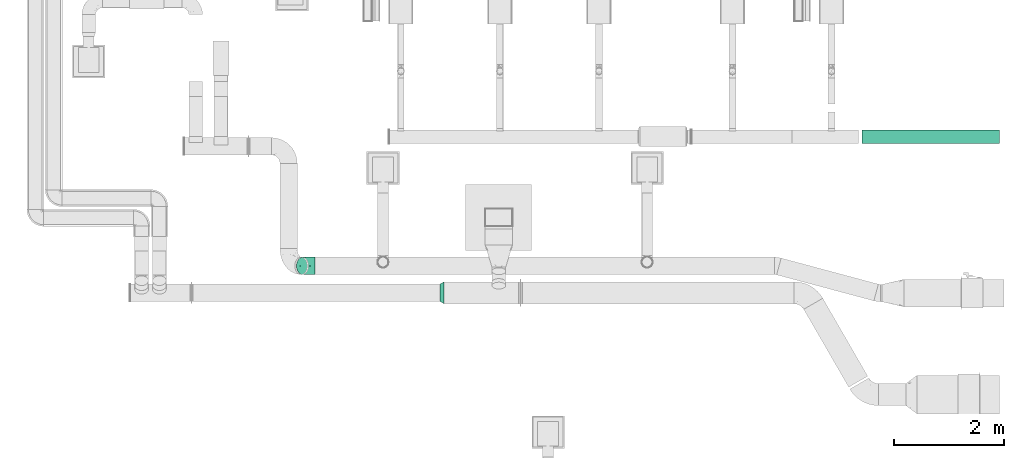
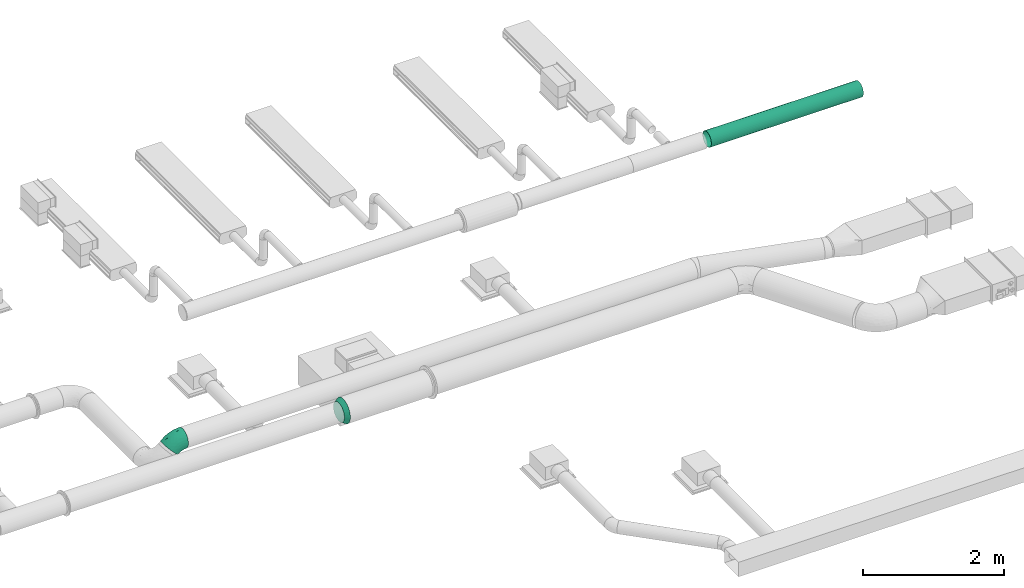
# One storey, part 31 of 36: 2 flow fittings, 1 flow segment.
"""IFC2X3 building model written with IfcOpenShell, lengths in millimetres."""

from ifc_helpers import new_model, entity, si_unit, converted_unit, derived_unit, direction, frame, origin_with_axes, place, context, subcontext, project, spatial, open_shell, faceted_brep, surface_model, source, transform, mapped, type_object, element, save


model = new_model("IFC2X3")

# Units and contexts
model_context = context("Model", 3, precision=0.01, world=frame((0.0, 4.29681676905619e-09, 0.0)), true_north=direction((4.01073788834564e-13, 1.0)))
plan_context = context("Plan", 3, precision=0.01, world=frame((0.0, 4.29681676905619e-09, 0.0)), true_north=direction((4.01073788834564e-13, 1.0)))
body_context = subcontext(model_context, "Body", "Model", "MODEL_VIEW")
ifc_project = project(units=[converted_unit("PLANEANGLEUNIT", "DEGREE", entity("IfcPositiveLengthMeasure", 0.0174532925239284), si_unit("PLANEANGLEUNIT", "RADIAN"), dimensions=[0, 0, 0, 0, 0, 0, 0]), si_unit("AREAUNIT", "SQUARE_METRE"), si_unit("LENGTHUNIT", "METRE", prefix="MILLI"), si_unit("MASSUNIT", "GRAM", prefix="KILO"), si_unit("POWERUNIT", "WATT"), si_unit("PRESSUREUNIT", "PASCAL"), si_unit("FORCEUNIT", "NEWTON", prefix="KILO"), si_unit("ELECTRICCURRENTUNIT", "AMPERE"), si_unit("THERMODYNAMICTEMPERATUREUNIT", "DEGREE_CELSIUS"), si_unit("TIMEUNIT", "SECOND"), si_unit("VOLUMEUNIT", "CUBIC_METRE"), derived_unit("LINEARVELOCITYUNIT", [(si_unit("LENGTHUNIT", "METRE"), 1), (si_unit("TIMEUNIT", "SECOND"), -1)]), derived_unit("VOLUMETRICFLOWRATEUNIT", [(si_unit("VOLUMEUNIT", "CUBIC_METRE"), 1), (si_unit("TIMEUNIT", "SECOND"), -1)]), derived_unit("THERMALTRANSMITTANCEUNIT", [(si_unit("POWERUNIT", "WATT"), 1), (si_unit("THERMODYNAMICTEMPERATUREUNIT", "KELVIN"), -1), (si_unit("AREAUNIT", "SQUARE_METRE"), -1)])], contexts=[model_context, plan_context])

# Site, building, storey
site_placement = place(None, frame((0.0, -4.29681676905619e-09, 0.0), z_axis=(0.0, 0.0, 1.0), x_axis=(1.0, 0.0, 0.0)))
site = spatial("IfcSite", under=ifc_project, at=site_placement, CompositionType="ELEMENT")
building_placement = place(site_placement, frame((0.0, 4.29681676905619e-09, 0.0), z_axis=(0.0, 0.0, 1.0), x_axis=(1.0, 0.0, 0.0)))
building = spatial("IfcBuilding", under=site, at=building_placement, Name="mc-building", CompositionType="ELEMENT")
storey_placement = place(building_placement, frame((0.0, 0.0, 204000.0), z_axis=(0.0, 0.0, 1.0), x_axis=(1.0, 0.0, 0.0)))
storey = spatial("IfcBuildingStorey", under=building, at=storey_placement, Name="Nivå D", CompositionType="ELEMENT", Elevation=204000.0)

# Flow fittings
duct_fitting_type_1 = type_object("IfcDuctFittingType", Name="magicirc_elbow_full_radius_001", PredefinedType="BEND")
shared_shape_1 = source(origin_with_axes(), body_context, "Body", "SurfaceModel", [
    surface_model("IfcShellBasedSurfaceModel", [(-130.47727, 78.75, -136.39901), (-130.47727, 40.764, -152.13332), (-130.47727, 0.0, -157.5), (-130.47727, 136.39901, -78.75), (-130.47727, -40.764, -152.13332), (-130.47727, 111.36932, -111.36932), (-130.47727, -157.5, 0.0), (-130.47727, -152.13332, 40.764), (-130.47727, -111.36932, -111.36932), (-130.47727, -152.13332, -40.764), (-130.47727, -78.75, -136.39901), (-130.47727, -136.39901, -78.75), (-130.47727, 152.13332, -40.764), (-130.47727, 157.5, 0.0), (-130.47727, 152.13332, 40.764), (-130.47727, 136.39901, 78.75), (-130.47727, 111.36932, 111.36932), (-130.47727, 78.75, 136.39901), (-130.47727, 40.764, 152.13332), (-130.47727, -111.36932, 111.36932), (-130.47727, -78.75, 136.39901), (-130.47727, -136.39901, 78.75), (-130.47727, 0.0, 157.5), (-130.47727, -40.764, 152.13332), (92.26137, 92.26137, -157.5), (63.43686, 121.08587, -152.13332), (36.57671, 147.94602, -136.39901), (121.08587, 63.43686, -152.13332), (-4.18729, 188.71003, -78.75), (13.51136, 171.01136, -111.36932), (13.51136, 171.01136, 111.36932), (203.63068, -19.10795, 0.0), (171.01136, 13.51136, -111.36932), (147.94602, 36.57671, -136.39901), (199.83586, -15.31314, -40.764), (188.71003, -4.18729, -78.75), (-15.31314, 199.83586, -40.764), (-19.10795, 203.63068, 0.0), (-15.31314, 199.83586, 40.764), (-4.18729, 188.71003, 78.75), (199.83586, -15.31314, 40.764), (36.57671, 147.94602, 136.39901), (63.43686, 121.08587, 152.13332), (188.71003, -4.18729, 78.75), (147.94602, 36.57671, 136.39901), (171.01136, 13.51136, 111.36932), (92.26137, 92.26137, 157.5), (121.08587, 63.43686, 152.13332), (-90.31824, -62.89797, 143.44996), (-72.27875, -23.25773, 154.94979), (-56.56199, -151.68274, 0.0), (-70.62575, -144.42219, 53.02885), (-91.264, -154.41385, 0.0), (-89.63351, -126.15228, 91.7184), (-69.33391, -97.41309, 120.07653), (-16.38997, -97.78481, 109.44527), (-40.47078, -60.22037, 140.65724), (-39.28412, -122.29161, 86.38044), (152.5836, -25.82267, 91.71841), (-81.87175, 17.75633, 156.89351), (67.55449, 34.66309, 154.94979), (45.33645, 70.44769, 156.89351), (19.44546, -106.17047, 85.82993), (-9.83286, -133.58825, 49.47276), (46.24417, -111.64335, 57.07322), (101.41402, -87.50829, 49.47275), (152.06186, -52.18197, 53.02885), (114.25128, -58.69516, 86.38044), (-3.65855, 130.02911, 128.74157), (-83.53697, 125.9293, 101.78766), (-89.35748, 94.53145, 128.74157), (-72.45165, 58.76305, 148.57173), (-42.27491, 102.06066, 132.90326), (-34.80211, 144.57687, 102.52932), (71.19939, -13.96507, 140.65724), (20.14269, -6.20589, 152.39698), (-29.92035, 72.23411, 148.58687), (9.6793, 92.78281, 148.57173), (-66.76397, 161.18248, 52.45275), (-89.71327, 162.86668, 0.0), (-51.72727, 178.601, 0.0), (115.64225, -86.63056, 0.0), (49.78325, -120.1874, 0.0), (84.03324, -106.00058, 0.0), (66.8953, -111.32944, 29.0342), (66.95497, -86.10086, 85.82994), (108.34022, 19.38906, 143.44996), (21.01822, -47.55911, 136.8648), (32.83795, -79.27786, 110.97397), (80.23571, -55.72758, 111.31288), (-99.24246, 146.38754, 64.87357), (173.72046, -44.65369, 0.0), (117.90794, -19.85497, 120.07653), (-11.3948, 27.50947, 157.45362), (-66.77072, 146.456, 81.42725), (-35.48483, 168.38694, 71.56288), (-24.4967, -27.0546, 151.48903), (-44.47795, 2.85402, 157.2553), (29.43256, 33.46875, 157.2553), (26.71905, -127.11627, 31.92385), (-20.51436, -143.02847, 0.0), (147.25126, -67.26053, 0.0), (15.53326, -134.3742, 0.0), (-89.35749, 94.53145, -128.74157), (31.41968, -126.02392, -29.0342), (13.53818, -108.22682, -85.82992), (-17.32987, -96.14058, -111.31287), (32.83796, -79.27786, -110.97396), (108.34022, 19.38906, -143.44996), (67.55449, 34.66308, -154.94979), (-72.45166, 58.76305, -148.57173), (9.67929, 92.78279, -148.57174), (-81.87176, 17.75632, -156.89351), (-66.76398, 161.18248, -52.45275), (-93.97599, 144.15911, -71.56287), (-77.62248, 126.84009, -102.52932), (-42.27492, 102.06066, -132.90325), (-40.47078, -60.22037, -140.65723), (-72.27875, -23.25774, -154.94979), (-9.85481, -18.63127, -152.39698), (-70.62574, -144.42219, -53.02885), (-89.63351, -126.15228, -91.7184), (-29.92036, 72.23411, -148.58687), (-44.47795, 2.85401, -157.2553), (-69.33391, -97.41309, -120.07653), (46.24419, -111.64335, -57.07321), (61.32383, -88.82388, -85.82992), (-90.31824, -62.89797, -143.44996), (152.06185, -52.18197, -53.02885), (101.41403, -87.50828, -49.47276), (114.25129, -58.69516, -86.38043), (18.76725, -48.49151, -136.86479), (-56.34601, 150.77405, -81.42725), (117.90794, -19.85498, -120.07653), (71.19939, -13.96508, -140.65723), (-9.83285, -133.58825, -49.47276), (-39.28411, -122.29161, -86.38043), (-29.97591, 148.11501, -101.78766), (-33.33661, 173.68664, -64.87357), (-3.65856, 130.02911, -128.74157), (152.5836, -25.82267, -91.7184), (45.33645, 70.44768, -156.89351), (80.73375, -57.55486, -109.44526), (-11.3948, 27.50946, -157.45362), (36.45227, -1.80872, -151.48903), (29.43256, 33.46875, -157.2553), (70.99154, -108.778, -31.92385)], [open_shell([[[0, 1, 2]], [[3, 0, 2]], [[4, 3, 2]], [[5, 0, 3]], [[3, 6, 7]], [[8, 9, 10]], [[4, 10, 6]], [[11, 9, 8]], [[6, 10, 9]], [[6, 3, 4]], [[7, 12, 3]], [[13, 7, 14]], [[15, 14, 16]], [[17, 16, 7]], [[7, 16, 14]], [[7, 18, 17]], [[19, 20, 21]], [[7, 21, 22]], [[23, 22, 20]], [[21, 20, 22]], [[22, 18, 7]], [[12, 7, 13]], [[24, 25, 26]], [[27, 24, 26]], [[26, 28, 27]], [[28, 26, 29]], [[28, 30, 31]], [[27, 32, 33]], [[32, 27, 34]], [[32, 34, 35]], [[34, 27, 31]], [[27, 28, 31]], [[28, 36, 37]], [[28, 38, 30]], [[30, 38, 39]], [[40, 30, 41]], [[30, 40, 31]], [[41, 42, 43]], [[43, 44, 45]], [[43, 40, 41]], [[44, 46, 47]], [[46, 44, 43]], [[42, 46, 43]], [[38, 28, 37]], [[48, 49, 23]], [[50, 51, 52]], [[19, 21, 53]], [[54, 55, 56]], [[53, 51, 57]], [[45, 58, 43]], [[54, 20, 19]], [[59, 22, 49]], [[60, 46, 61]], [[19, 53, 54]], [[23, 20, 48]], [[62, 63, 64]], [[65, 66, 67]], [[41, 30, 68]], [[16, 69, 15]], [[70, 71, 72]], [[21, 7, 51]], [[69, 72, 73]], [[18, 22, 59]], [[74, 60, 75]], [[72, 76, 77]], [[14, 78, 79]], [[76, 72, 71]], [[79, 13, 14]], [[80, 78, 38]], [[46, 42, 61]], [[70, 16, 17]], [[66, 65, 81]], [[82, 83, 84]], [[64, 85, 62]], [[47, 86, 44]], [[23, 49, 22]], [[87, 74, 75]], [[86, 60, 74]], [[43, 66, 40]], [[88, 85, 89]], [[14, 15, 90]], [[66, 91, 40]], [[17, 18, 71]], [[44, 92, 45]], [[60, 47, 46]], [[66, 43, 58]], [[85, 88, 62]], [[51, 63, 57]], [[59, 93, 71]], [[79, 78, 80]], [[78, 94, 95]], [[37, 80, 38]], [[49, 96, 97]], [[38, 78, 95]], [[90, 69, 94]], [[39, 73, 30]], [[48, 54, 56]], [[68, 73, 72]], [[98, 60, 61]], [[77, 42, 41]], [[41, 68, 77]], [[55, 57, 62]], [[51, 7, 52]], [[92, 67, 58]], [[99, 63, 100]], [[60, 98, 75]], [[86, 92, 44]], [[74, 87, 89]], [[85, 65, 67]], [[71, 93, 76]], [[69, 16, 70]], [[90, 94, 78]], [[42, 77, 61]], [[93, 61, 77]], [[97, 59, 49]], [[71, 18, 59]], [[75, 93, 97]], [[87, 88, 89]], [[71, 70, 17]], [[69, 70, 72]], [[73, 68, 30]], [[77, 68, 72]], [[65, 83, 81]], [[99, 84, 64]], [[82, 84, 99]], [[84, 83, 65]], [[96, 87, 75]], [[55, 87, 56]], [[60, 86, 47]], [[92, 86, 74]], [[54, 48, 20]], [[49, 48, 56]], [[51, 53, 21]], [[54, 53, 57]], [[92, 58, 45]], [[66, 58, 67]], [[69, 90, 15]], [[78, 14, 90]], [[69, 73, 94]], [[95, 73, 39]], [[73, 95, 94]], [[38, 95, 39]], [[7, 6, 52]], [[91, 66, 101]], [[91, 31, 40]], [[93, 77, 76]], [[63, 99, 64]], [[101, 66, 81]], [[65, 64, 84]], [[51, 100, 63]], [[82, 99, 102]], [[65, 85, 64]], [[89, 67, 92]], [[67, 89, 85]], [[74, 89, 92]], [[55, 62, 88]], [[63, 62, 57]], [[55, 88, 87]], [[54, 57, 55]], [[61, 93, 98]], [[75, 98, 93]], [[49, 56, 96]], [[93, 59, 97]], [[87, 96, 56]], [[75, 97, 96]], [[100, 51, 50]], [[102, 99, 100]], [[103, 0, 5]], [[104, 82, 102]], [[105, 106, 107]], [[108, 109, 27]], [[0, 103, 110]], [[26, 25, 111]], [[13, 79, 12]], [[2, 1, 112]], [[12, 79, 113]], [[12, 113, 114]], [[115, 116, 103]], [[27, 109, 24]], [[117, 118, 119]], [[1, 0, 110]], [[120, 11, 121]], [[116, 122, 110]], [[120, 52, 9]], [[118, 123, 119]], [[124, 8, 10]], [[125, 105, 126]], [[127, 10, 4]], [[128, 129, 130]], [[117, 131, 106]], [[120, 9, 11]], [[118, 117, 127]], [[8, 121, 11]], [[113, 132, 114]], [[122, 116, 111]], [[79, 80, 113]], [[108, 133, 134]], [[80, 37, 36]], [[135, 120, 136]], [[29, 137, 28]], [[28, 138, 36]], [[118, 4, 2]], [[115, 137, 116]], [[139, 29, 26]], [[140, 32, 35]], [[112, 118, 2]], [[25, 24, 141]], [[3, 115, 5]], [[111, 116, 139]], [[35, 34, 128]], [[108, 27, 33]], [[133, 33, 32]], [[131, 117, 119]], [[138, 137, 132]], [[129, 125, 126]], [[10, 127, 124]], [[32, 140, 133]], [[130, 140, 128]], [[141, 24, 109]], [[128, 91, 101]], [[121, 124, 136]], [[123, 118, 112]], [[134, 133, 142]], [[120, 135, 100]], [[105, 107, 126]], [[141, 143, 111]], [[113, 80, 36]], [[142, 130, 126]], [[109, 144, 145]], [[128, 34, 91]], [[146, 129, 81]], [[105, 135, 136]], [[34, 31, 91]], [[137, 29, 139]], [[138, 132, 113]], [[1, 110, 112]], [[143, 112, 110]], [[145, 141, 109]], [[111, 25, 141]], [[119, 143, 145]], [[131, 107, 106]], [[115, 103, 5]], [[110, 103, 116]], [[111, 139, 26]], [[137, 139, 116]], [[135, 102, 100]], [[146, 104, 125]], [[82, 104, 146]], [[104, 102, 135]], [[144, 131, 119]], [[142, 131, 134]], [[118, 127, 4]], [[124, 127, 117]], [[133, 108, 33]], [[109, 108, 134]], [[128, 140, 35]], [[133, 140, 130]], [[124, 121, 8]], [[120, 121, 136]], [[137, 138, 28]], [[113, 36, 138]], [[137, 115, 132]], [[114, 115, 3]], [[115, 114, 132]], [[12, 114, 3]], [[52, 120, 50]], [[52, 6, 9]], [[111, 143, 122]], [[143, 110, 122]], [[104, 135, 125]], [[120, 100, 50]], [[125, 129, 146]], [[128, 81, 129]], [[82, 146, 83]], [[135, 105, 125]], [[106, 136, 124]], [[136, 106, 105]], [[117, 106, 124]], [[142, 126, 107]], [[129, 126, 130]], [[142, 107, 131]], [[133, 130, 142]], [[112, 143, 123]], [[119, 123, 143]], [[109, 134, 144]], [[143, 141, 145]], [[131, 144, 134]], [[119, 145, 144]], [[81, 128, 101]], [[83, 146, 81]]])]),
])
flow_fitting_1_placement = place(storey_placement, frame((519526.42919, 414221.8494, 2930.0), z_axis=(0.0, -1.0, 0.0), x_axis=(-1.0, 0.0, 0.0)))
element("IfcFlowFitting", 1, at=flow_fitting_1_placement, inside=storey, type_object=duct_fitting_type_1, Name="magicirc_elbow_full_radius_001", context=body_context, shape_type="MappedRepresentation", body=[
    mapped(shared_shape_1, transform((0.0, 0.0, 0.0), scale=1.0)),
])
duct_fitting_type_2 = type_object("IfcDuctFittingType", Name="magicirc_reduction_001", PredefinedType="TRANSITION")
shared_shape_2 = source(origin_with_axes(), body_context, "Body", "SurfaceModel", [
    surface_model("IfcShellBasedSurfaceModel", [(0.0, 200.0, 0.0), (0.0, 194.18836, -47.86313), (0.0, 177.09121, -92.94464), (0.0, -200.0, 0.0), (0.0, -194.18836, 47.86313), (0.0, -177.09121, 92.94464), (0.0, 86.77674, 180.19378), (0.0, 44.50419, 194.98559), (0.0, 156.36629, 124.69796), (0.0, 180.19378, 86.77674), (0.0, -156.36629, 124.69796), (0.0, 0.0, 200.0), (0.0, -194.98559, -44.50419), (0.0, -86.77674, 180.19378), (0.0, -44.50419, 194.98559), (0.0, -124.69796, 156.36629), (0.0, -180.19378, 86.77674), (0.0, -194.98559, 44.50419), (0.0, 156.36629, -124.69796), (0.0, 124.69796, -156.36629), (0.0, 86.77674, -180.19378), (0.0, 44.50419, -194.98559), (0.0, -156.36629, -124.69796), (0.0, -180.19378, -86.77674), (0.0, -124.69796, -156.36629), (0.0, -86.77674, -180.19378), (0.0, 194.98559, 44.50419), (0.0, 0.0, -200.0), (0.0, 194.98559, -44.50419), (0.0, 180.19378, -86.77674), (0.0, -70.92098, 187.00325), (0.0, -24.10734, 198.54177), (0.0, 24.10734, 198.54177), (0.0, -113.61295, -164.59677), (0.0, -149.70215, -132.62454), (0.0, -70.92098, -187.00325), (0.0, 149.70215, 132.62454), (0.0, 177.09121, 92.94464), (0.0, 194.18836, 47.86313), (0.0, 149.70215, -132.62454), (0.0, -149.70215, 132.62454), (0.0, -113.61295, 164.59677), (0.0, -194.18836, -47.86313), (0.0, -177.09121, -92.94464), (0.0, 124.69796, 156.36629), (0.0, -44.50419, -194.98559), (0.0, 113.61295, -164.59677), (0.0, 70.92098, -187.00325), (0.0, 24.10734, -198.54177), (0.0, -24.10734, -198.54177), (73.61216, -78.75, 136.39901), (73.61216, 40.764, 152.13332), (73.61216, -40.764, 152.13332), (73.61216, -157.5, 0.0), (73.61216, -111.36932, 111.36932), (73.61216, -136.39901, 78.75), (73.61216, -152.13332, 40.764), (73.61216, 78.75, 136.39901), (73.61216, 152.13332, -40.764), (73.61216, 111.36932, 111.36932), (73.61216, 0.0, 157.5), (73.61216, 136.39901, 78.75), (73.61216, 152.13332, 40.764), (73.61216, 0.0, -157.5), (73.61216, -152.13332, -40.764), (73.61216, -136.39901, -78.75), (73.61216, -111.36932, -111.36932), (73.61216, -78.75, -136.39901), (73.61216, -40.764, -152.13332), (73.61216, 111.36932, -111.36932), (73.61216, 136.39901, -78.75), (73.61216, 157.5, 0.0), (73.61216, 78.75, -136.39901), (73.61216, 40.764, -152.13332), (0.0, 70.92098, 187.00325), (0.0, 113.61295, 164.59677)], [open_shell([[[0, 1, 2]], [[3, 4, 5]], [[6, 0, 7]], [[8, 9, 0]], [[10, 11, 12]], [[11, 13, 14]], [[11, 15, 13]], [[16, 10, 12]], [[17, 16, 12]], [[18, 19, 20]], [[0, 21, 12]], [[21, 22, 23]], [[23, 12, 21]], [[24, 21, 25]], [[0, 12, 11]], [[7, 14, 11]], [[6, 14, 7]], [[15, 12, 10]], [[13, 12, 15]], [[13, 14, 12]], [[0, 9, 26]], [[27, 0, 28]], [[29, 27, 28]], [[27, 18, 19]], [[23, 25, 22]], [[24, 22, 25]], [[12, 0, 27]], [[0, 12, 14]], [[30, 31, 32]], [[33, 34, 35]], [[36, 37, 38]], [[39, 38, 2]], [[40, 41, 42]], [[42, 34, 43]], [[6, 44, 14]], [[0, 8, 9]], [[18, 27, 29]], [[3, 17, 12]], [[26, 0, 9]], [[45, 25, 21]], [[0, 28, 29]], [[27, 45, 25]], [[20, 21, 18]], [[39, 46, 47]], [[47, 48, 49]], [[50, 51, 52]], [[53, 50, 54]], [[55, 56, 53]], [[55, 53, 54]], [[51, 50, 53]], [[57, 58, 59]], [[51, 60, 52]], [[57, 51, 58]], [[59, 58, 61]], [[58, 62, 61]], [[53, 58, 51]], [[63, 64, 65]], [[63, 65, 66]], [[67, 68, 63]], [[67, 63, 66]], [[63, 58, 53]], [[58, 69, 70]], [[71, 62, 58]], [[63, 69, 58]], [[63, 72, 69]], [[73, 72, 63]], [[53, 64, 63]], [[7, 0, 11]], [[8, 0, 44]], [[44, 0, 6]], [[15, 11, 10]], [[0, 29, 18]], [[18, 21, 0]], [[22, 21, 24]], [[21, 27, 45]], [[68, 67, 25]], [[63, 68, 45]], [[27, 63, 45]], [[45, 68, 25]], [[67, 24, 25]], [[67, 66, 24]], [[66, 65, 22]], [[64, 53, 12]], [[65, 64, 23]], [[23, 22, 65]], [[12, 23, 64]], [[53, 3, 12]], [[66, 22, 24]], [[58, 70, 29]], [[71, 58, 28]], [[0, 71, 28]], [[28, 58, 29]], [[70, 18, 29]], [[70, 69, 18]], [[69, 72, 19]], [[73, 63, 21]], [[72, 73, 20]], [[20, 19, 72]], [[21, 20, 73]], [[63, 27, 21]], [[69, 19, 18]], [[51, 57, 6]], [[60, 51, 7]], [[11, 60, 7]], [[7, 51, 6]], [[57, 44, 6]], [[57, 59, 44]], [[59, 61, 8]], [[62, 71, 26]], [[61, 62, 9]], [[9, 8, 61]], [[26, 9, 62]], [[71, 0, 26]], [[59, 8, 44]], [[56, 55, 16]], [[53, 56, 17]], [[3, 53, 17]], [[17, 56, 16]], [[55, 10, 16]], [[55, 54, 10]], [[54, 50, 15]], [[52, 60, 14]], [[50, 52, 13]], [[13, 15, 50]], [[14, 13, 52]], [[60, 11, 14]], [[54, 15, 10]], [[0, 14, 44]], [[10, 12, 16]], [[17, 12, 3]], [[20, 27, 19]], [[27, 20, 21]], [[25, 23, 12]], [[25, 12, 27]], [[53, 52, 50]], [[52, 53, 60]], [[60, 57, 51]], [[57, 60, 59]], [[62, 61, 58]], [[60, 58, 59]], [[60, 53, 68]], [[65, 66, 53]], [[66, 68, 53]], [[68, 58, 60]], [[68, 66, 67]], [[73, 68, 63]], [[68, 70, 58]], [[69, 70, 68]], [[68, 72, 69]], [[73, 72, 68]], [[65, 53, 64]], [[10, 16, 55]], [[56, 16, 17]], [[15, 50, 13]], [[11, 14, 60]], [[44, 6, 57]], [[51, 6, 7]], [[8, 61, 9]], [[0, 26, 71]], [[18, 29, 70]], [[58, 29, 28]], [[19, 72, 20]], [[27, 21, 63]], [[24, 25, 67]], [[68, 25, 45]], [[22, 65, 23]], [[3, 12, 53]], [[52, 73, 60]], [[50, 73, 52]], [[62, 60, 73]], [[54, 53, 50]], [[60, 59, 57]], [[59, 62, 61]], [[60, 62, 59]], [[62, 73, 71]], [[53, 55, 56]], [[53, 64, 65]], [[53, 65, 66]], [[53, 67, 73]], [[67, 53, 66]], [[73, 67, 68]], [[71, 69, 70]], [[70, 58, 71]], [[72, 69, 71]], [[72, 71, 73]], [[68, 63, 73]], [[73, 50, 53]], [[36, 32, 74]], [[36, 74, 75]], [[32, 36, 42]], [[42, 30, 32]], [[3, 5, 42]], [[42, 5, 40]], [[41, 30, 42]], [[42, 36, 38]], [[39, 49, 38]], [[49, 39, 47]], [[38, 34, 42]], [[35, 34, 49]], [[49, 34, 38]], [[2, 38, 0]], [[58, 70, 2]], [[71, 58, 1]], [[72, 73, 47]], [[69, 72, 46]], [[70, 69, 39]], [[58, 2, 1]], [[1, 0, 71]], [[39, 2, 70]], [[39, 69, 46]], [[46, 72, 47]], [[48, 47, 73]], [[73, 63, 48]], [[49, 63, 68]], [[35, 68, 67]], [[66, 65, 34]], [[64, 53, 42]], [[65, 64, 43]], [[67, 66, 33]], [[49, 68, 35]], [[35, 67, 33]], [[33, 66, 34]], [[43, 34, 65]], [[42, 43, 64]], [[3, 42, 53]], [[63, 49, 48]], [[56, 55, 5]], [[53, 56, 4]], [[50, 52, 30]], [[54, 50, 41]], [[55, 54, 40]], [[56, 5, 4]], [[4, 3, 53]], [[40, 5, 55]], [[40, 54, 41]], [[41, 50, 30]], [[31, 30, 52]], [[52, 60, 31]], [[32, 60, 51]], [[74, 51, 57]], [[59, 61, 36]], [[62, 71, 38]], [[61, 62, 37]], [[57, 59, 75]], [[32, 51, 74]], [[74, 57, 75]], [[75, 59, 36]], [[37, 36, 61]], [[38, 37, 62]], [[0, 38, 71]], [[60, 32, 31]]])]),
])
flow_fitting_2_placement = place(storey_placement, frame((522004.73615, 413732.76875, 2877.5), z_axis=(0.0, 0.0, 1.0), x_axis=(-1.0, 0.0, 0.0)))
element("IfcFlowFitting", 2, at=flow_fitting_2_placement, inside=storey, type_object=duct_fitting_type_2, Name="magicirc_reduction_001", context=body_context, shape_type="MappedRepresentation", body=[
    mapped(shared_shape_2, transform((0.0, 0.0, 0.0), scale=1.0)),
])

# Flow segment
duct_segment_type = type_object("IfcDuctSegmentType", Name="2 - Spiro kanaler, Forsinket stål", PredefinedType="RIGIDSEGMENT")
flow_segment_placement = place(storey_placement, frame((529603.514, 416568.96658, 3200.0), z_axis=(0.0, 0.0, 1.0), x_axis=(1.0, 0.0, 0.0)))
element("IfcFlowSegment", 3, at=flow_segment_placement, inside=storey, type_object=duct_segment_type, Name="2 - Spiro kanaler, Forsinket stål", context=body_context, shape_type="Brep", body=[
    faceted_brep([(2491.48600000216, 123.0, 0.0), (2491.48600000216, 121.131353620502, -21.3587258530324), (0.0, 121.131353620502, -21.3587258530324), (0.0, 123.0, 0.0), (2491.48600000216, 115.582192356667, -42.0684776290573), (0.0, 115.582192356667, -42.0684776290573), (2491.48600000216, 106.521124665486, -61.5000000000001), (0.0, 106.521124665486, -61.5000000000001), (2491.48600000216, 94.2234665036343, -79.0628759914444), (0.0, 94.2234665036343, -79.0628759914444), (2491.48600000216, 79.0628759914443, -94.2234665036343), (0.0, 79.0628759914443, -94.2234665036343), (2491.48600000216, 61.5, -106.521124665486), (0.0, 61.5, -106.521124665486), (2491.48600000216, 42.0684776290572, -115.582192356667), (0.0, 42.0684776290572, -115.582192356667), (2491.48600000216, 21.3587258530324, -121.131353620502), (0.0, 21.3587258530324, -121.131353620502), (2491.48600000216, -2.25947334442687e-14, -123.0), (0.0, -2.25947334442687e-14, -123.0), (2491.48600000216, -21.3587258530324, -121.131353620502), (0.0, -21.3587258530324, -121.131353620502), (2491.48600000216, -42.0684776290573, -115.582192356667), (0.0, -42.0684776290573, -115.582192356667), (2491.48600000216, -61.5000000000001, -106.521124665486), (0.0, -61.5000000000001, -106.521124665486), (2491.48600000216, -79.0628759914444, -94.2234665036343), (0.0, -79.0628759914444, -94.2234665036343), (2491.48600000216, -94.2234665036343, -79.0628759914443), (0.0, -94.2234665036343, -79.0628759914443), (2491.48600000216, -106.521124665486, -61.5), (0.0, -106.521124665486, -61.5), (2491.48600000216, -115.582192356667, -42.0684776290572), (0.0, -115.582192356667, -42.0684776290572), (2491.48600000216, -121.131353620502, -21.3587258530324), (0.0, -121.131353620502, -21.3587258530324), (2491.48600000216, -123.0, 1.50631556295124e-14), (0.0, -123.0, 1.50631556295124e-14), (2491.48600000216, -121.131353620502, 21.3587258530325), (0.0, -121.131353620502, 21.3587258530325), (2491.48600000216, -115.582192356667, 42.0684776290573), (0.0, -115.582192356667, 42.0684776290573), (2491.48600000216, -106.521124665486, 61.5), (0.0, -106.521124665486, 61.5), (2491.48600000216, -94.2234665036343, 79.0628759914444), (0.0, -94.2234665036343, 79.0628759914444), (2491.48600000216, -79.0628759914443, 94.2234665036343), (0.0, -79.0628759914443, 94.2234665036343), (2491.48600000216, -61.5, 106.521124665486), (0.0, -61.5, 106.521124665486), (2491.48600000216, -42.0684776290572, 115.582192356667), (0.0, -42.0684776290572, 115.582192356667), (2491.48600000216, -21.3587258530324, 121.131353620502), (0.0, -21.3587258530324, 121.131353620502), (2491.48600000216, 7.53157781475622e-15, 123.0), (0.0, 7.53157781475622e-15, 123.0), (2491.48600000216, 21.3587258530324, 121.131353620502), (0.0, 21.3587258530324, 121.131353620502), (2491.48600000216, 42.0684776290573, 115.582192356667), (0.0, 42.0684776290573, 115.582192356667), (2491.48600000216, 61.5, 106.521124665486), (0.0, 61.5, 106.521124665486), (2491.48600000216, 79.0628759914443, 94.2234665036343), (0.0, 79.0628759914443, 94.2234665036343), (2491.48600000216, 94.2234665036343, 79.0628759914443), (0.0, 94.2234665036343, 79.0628759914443), (2491.48600000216, 106.521124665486, 61.5), (0.0, 106.521124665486, 61.5), (2491.48600000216, 115.582192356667, 42.0684776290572), (0.0, 115.582192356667, 42.0684776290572), (2491.48600000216, 121.131353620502, 21.3587258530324), (0.0, 121.131353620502, 21.3587258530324), (2491.48600000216, 123.100969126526, -21.7060222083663), (2491.48600000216, 125.0, 0.0), (0.0, 125.0, 0.0), (0.0, 123.100969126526, -21.7060222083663), (2491.48600000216, 123.100969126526, 21.7060222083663), (0.0, 123.100969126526, 21.7060222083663), (2491.48600000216, 117.461577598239, 42.7525179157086), (0.0, 117.461577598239, 42.7525179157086), (2491.48600000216, 108.253175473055, 62.5), (0.0, 108.253175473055, 62.5), (2491.48600000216, 95.7555553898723, 80.3484512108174), (0.0, 95.7555553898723, 80.3484512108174), (2491.48600000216, 80.3484512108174, 95.7555553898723), (0.0, 80.3484512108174, 95.7555553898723), (2491.48600000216, 62.5, 108.253175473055), (0.0, 62.5, 108.253175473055), (2491.48600000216, 42.7525179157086, 117.461577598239), (0.0, 42.7525179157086, 117.461577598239), (2491.48600000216, 21.7060222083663, 123.100969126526), (0.0, 21.7060222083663, 123.100969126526), (2491.48600000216, 7.65404249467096e-15, 125.0), (0.0, 7.65404249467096e-15, 125.0), (2491.48600000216, -21.7060222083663, 123.100969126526), (0.0, -21.7060222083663, 123.100969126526), (2491.48600000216, -42.7525179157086, 117.461577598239), (0.0, -42.7525179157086, 117.461577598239), (2491.48600000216, -62.5, 108.253175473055), (0.0, -62.5, 108.253175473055), (2491.48600000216, -80.3484512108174, 95.7555553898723), (0.0, -80.3484512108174, 95.7555553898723), (2491.48600000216, -95.7555553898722, 80.3484512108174), (0.0, -95.7555553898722, 80.3484512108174), (2491.48600000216, -108.253175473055, 62.5), (0.0, -108.253175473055, 62.5), (2491.48600000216, -117.461577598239, 42.7525179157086), (0.0, -117.461577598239, 42.7525179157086), (2491.48600000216, -123.100969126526, 21.7060222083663), (0.0, -123.100969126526, 21.7060222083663), (2491.48600000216, -125.0, 1.53080849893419e-14), (0.0, -125.0, 1.53080849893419e-14), (2491.48600000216, -123.100969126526, -21.7060222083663), (0.0, -123.100969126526, -21.7060222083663), (2491.48600000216, -117.461577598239, -42.7525179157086), (0.0, -117.461577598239, -42.7525179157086), (2491.48600000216, -108.253175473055, -62.5), (0.0, -108.253175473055, -62.5), (2491.48600000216, -95.7555553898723, -80.3484512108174), (0.0, -95.7555553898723, -80.3484512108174), (2491.48600000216, -80.3484512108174, -95.7555553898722), (0.0, -80.3484512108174, -95.7555553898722), (2491.48600000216, -62.5000000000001, -108.253175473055), (0.0, -62.5000000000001, -108.253175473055), (2491.48600000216, -42.7525179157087, -117.461577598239), (0.0, -42.7525179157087, -117.461577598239), (2491.48600000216, -21.7060222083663, -123.100969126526), (0.0, -21.7060222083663, -123.100969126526), (2491.48600000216, -2.29621274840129e-14, -125.0), (0.0, -2.29621274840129e-14, -125.0), (2491.48600000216, 21.7060222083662, -123.100969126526), (0.0, 21.7060222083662, -123.100969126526), (2491.48600000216, 42.7525179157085, -117.461577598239), (0.0, 42.7525179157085, -117.461577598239), (2491.48600000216, 62.5, -108.253175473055), (0.0, 62.5, -108.253175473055), (2491.48600000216, 80.3484512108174, -95.7555553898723), (0.0, 80.3484512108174, -95.7555553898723), (2491.48600000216, 95.7555553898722, -80.3484512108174), (0.0, 95.7555553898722, -80.3484512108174), (2491.48600000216, 108.253175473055, -62.5000000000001), (0.0, 108.253175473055, -62.5000000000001), (2491.48600000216, 117.461577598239, -42.7525179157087), (0.0, 117.461577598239, -42.7525179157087)], [[[0, 1, 2, 3]], [[1, 4, 5, 2]], [[4, 6, 7, 5]], [[6, 8, 9, 7]], [[8, 10, 11, 9]], [[10, 12, 13, 11]], [[12, 14, 15, 13]], [[14, 16, 17, 15]], [[16, 18, 19, 17]], [[18, 20, 21, 19]], [[20, 22, 23, 21]], [[22, 24, 25, 23]], [[24, 26, 27, 25]], [[26, 28, 29, 27]], [[28, 30, 31, 29]], [[30, 32, 33, 31]], [[32, 34, 35, 33]], [[34, 36, 37, 35]], [[36, 38, 39, 37]], [[38, 40, 41, 39]], [[40, 42, 43, 41]], [[42, 44, 45, 43]], [[44, 46, 47, 45]], [[46, 48, 49, 47]], [[48, 50, 51, 49]], [[50, 52, 53, 51]], [[52, 54, 55, 53]], [[54, 56, 57, 55]], [[56, 58, 59, 57]], [[58, 60, 61, 59]], [[60, 62, 63, 61]], [[62, 64, 65, 63]], [[64, 66, 67, 65]], [[66, 68, 69, 67]], [[68, 70, 71, 69]], [[70, 0, 3, 71]], [[72, 73, 74, 75]], [[73, 76, 77, 74]], [[76, 78, 79, 77]], [[78, 80, 81, 79]], [[80, 82, 83, 81]], [[82, 84, 85, 83]], [[84, 86, 87, 85]], [[86, 88, 89, 87]], [[88, 90, 91, 89]], [[90, 92, 93, 91]], [[92, 94, 95, 93]], [[94, 96, 97, 95]], [[96, 98, 99, 97]], [[98, 100, 101, 99]], [[100, 102, 103, 101]], [[102, 104, 105, 103]], [[104, 106, 107, 105]], [[106, 108, 109, 107]], [[108, 110, 111, 109]], [[110, 112, 113, 111]], [[112, 114, 115, 113]], [[114, 116, 117, 115]], [[116, 118, 119, 117]], [[118, 120, 121, 119]], [[120, 122, 123, 121]], [[122, 124, 125, 123]], [[124, 126, 127, 125]], [[126, 128, 129, 127]], [[128, 130, 131, 129]], [[130, 132, 133, 131]], [[132, 134, 135, 133]], [[134, 136, 137, 135]], [[136, 138, 139, 137]], [[138, 140, 141, 139]], [[140, 142, 143, 141]], [[142, 72, 75, 143]], [[75, 74, 77, 79, 81, 83, 85, 87, 89, 91, 93, 95, 97, 99, 101, 103, 105, 107, 109, 111, 113, 115, 117, 119, 121, 123, 125, 127, 129, 131, 133, 135, 137, 139, 141, 143], [3, 2, 5, 7, 9, 11, 13, 15, 17, 19, 21, 23, 25, 27, 29, 31, 33, 35, 37, 39, 41, 43, 45, 47, 49, 51, 53, 55, 57, 59, 61, 63, 65, 67, 69, 71]], [[142, 140, 138, 136, 134, 132, 130, 128, 126, 124, 122, 120, 118, 116, 114, 112, 110, 108, 106, 104, 102, 100, 98, 96, 94, 92, 90, 88, 86, 84, 82, 80, 78, 76, 73, 72], [70, 68, 66, 64, 62, 60, 58, 56, 54, 52, 50, 48, 46, 44, 42, 40, 38, 36, 34, 32, 30, 28, 26, 24, 22, 20, 18, 16, 14, 12, 10, 8, 6, 4, 1, 0]]], orient=[[False], [False], [False], [False], [False], [False], [False], [False], [False], [False], [False], [False], [False], [False], [False], [False], [False], [False], [False], [False], [False], [False], [False], [False], [False], [False], [False], [False], [False], [False], [False], [False], [False], [False], [False], [False], [False], [False], [False], [False], [False], [False], [False], [False], [False], [False], [False], [False], [False], [False], [False], [False], [False], [False], [False], [False], [False], [False], [False], [False], [False], [False], [False], [False], [False], [False], [False], [False], [False], [False], [False], [False], [False, False], [False, False]]),
])

save(model, "model.ifc")
